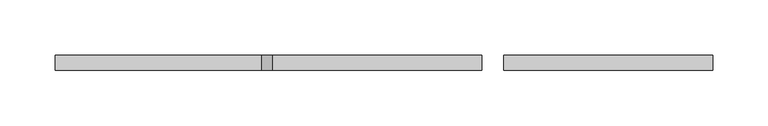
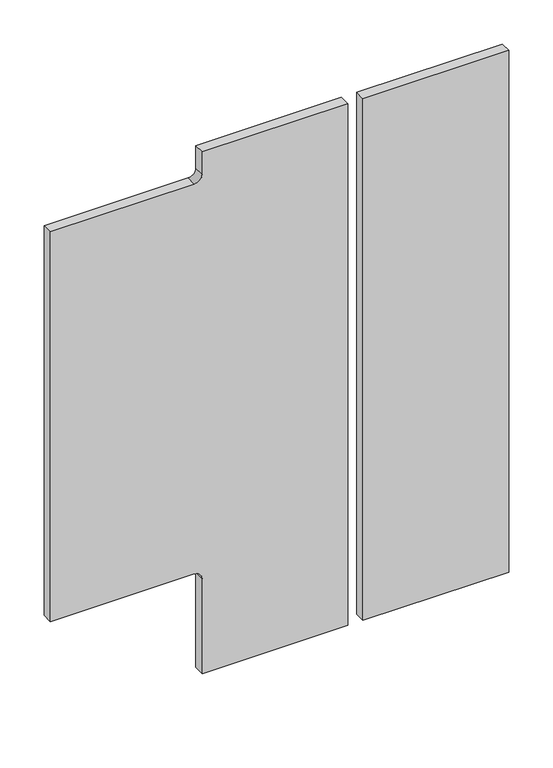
"""IFC4 building model written with IfcOpenShell, lengths in millimetres: fastener geometry, 主梁与次梁铰接节点5 : 主梁与次梁铰接节点1."""

from ifc_helpers import new_model, si_unit, point, frame, frame_2d, origin, place, context, project, spatial, polyline, circle_curve, trimmed, segment, composite_curve, outline, extrude, source, transform, mapped, element, save


def fastener_dc46d4dd(model_context):
    return source(origin(), model_context, "Body", "SweptSolid", [
        extrude(outline(polyline([(-289.5250948, 2999.3483191), (-479.5250948, 2999.3483191), (-479.5250948, 3013.3483191), (-289.5250948, 3013.3483191), (-289.5250948, 2999.3483191)])), frame((0.0, 0.0, 2320.0), z_axis=(0.0, 0.0, 1.0), x_axis=(1.0, 0.0, 0.0)), (0.0, 0.0, 1.0), 720.0),
        extrude(outline(composite_curve([segment(polyline([(2999.0, -887.5250948), (2461.0, -887.5250948), (2461.0, -699.5250948)]), True, "CONTINUOUS"), segment(trimmed(circle_curve(frame_2d((2451.0, -699.5250948)), 10.0), [point((2461.0, -699.5250948))], [point((2451.0, -689.5250948))], True, "CARTESIAN"), True, "CONTINUOUS"), segment(polyline([(2451.0, -689.5250948), (2320.0, -689.5250948), (2320.0, -499.5250948), (3040.0, -499.5250948), (3040.0, -689.5250948), (3009.0, -689.5250948)]), True, "CONTINUOUS"), segment(trimmed(circle_curve(frame_2d((3009.0, -699.5250948)), 10.0), [point((3009.0, -689.5250948))], [point((2999.0, -699.5250948))], True, "CARTESIAN"), True, "CONTINUOUS"), segment(polyline([(2999.0, -699.5250948), (2999.0, -887.5250948)]), True, "CONTINUOUS")], self_intersect=False)), frame((0.0, 2999.3483191, 0.0), z_axis=(0.0, 1.0, 0.0), x_axis=(0.0, 0.0, 1.0)), (0.0, 0.0, 1.0), 14.0),
    ])


if __name__ == "__main__":
    model = new_model("IFC4")
    model_context = context("Model", 3, world=origin())
    ifc_project = project(units=[si_unit("LENGTHUNIT", "METRE", prefix="MILLI")], contexts=[model_context])
    site = spatial("IfcSite", under=ifc_project)
    building = spatial("IfcBuilding", under=site)
    placement = place(None, origin())
    fastener_shape = fastener_dc46d4dd(model_context)
    element("IfcFastener", 1, ObjectType="主梁与次梁铰接节点5 : 主梁与次梁铰接节点1", at=placement, inside=building, context=model_context, shape_type="MappedRepresentation", body=[
        mapped(fastener_shape, transform((0.0, 0.0, 0.0), x_axis=(1.0, 0.0, 0.0), y_axis=(0.0, 1.0, 0.0), z_axis=(0.0, 0.0, 1.0))),
    ])
    save(model, "model.ifc")
